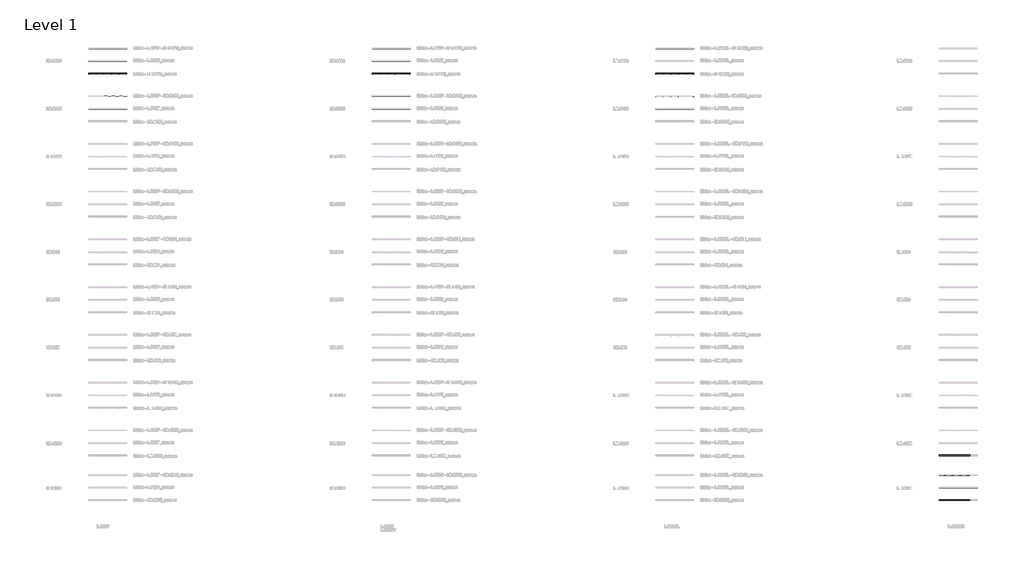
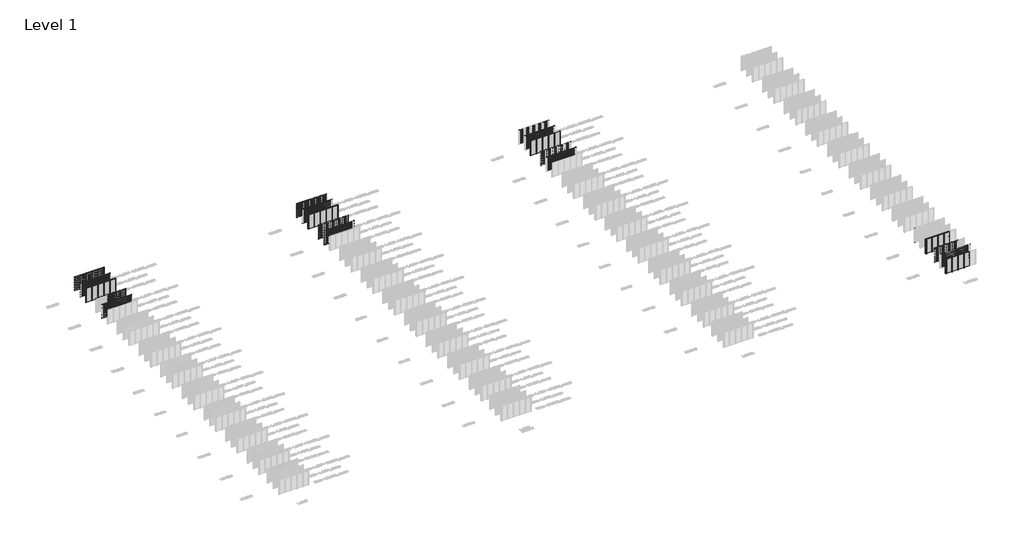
# One storey, part 11 of 540: 65 members, 62 plates.
"""IFC4 building model written with IfcOpenShell, lengths in millimetres."""

from ifc_helpers import new_model, si_unit, origin, origin_with_axes, place, context, project, spatial, polyline, outline, extrude, faceted_brep, transform, mapped, element, save
from components import rectangular_mullion_42be434b, rectangular_mullion_e1f482b2, rectangular_mullion_7803f5c4, rectangular_mullion_82152e2f, rectangular_mullion_ffdfeaf4, rectangular_mullion_e0a14876, rectangular_mullion_146f339b, rectangular_mullion_aa1047c5, rectangular_mullion_d2d38772, rectangular_mullion_aaa1fb1b, empty_system_panel_empty_aabbdda4

model = new_model("IFC4")

# Units and contexts
model_context = context("Model", 3, world=origin())
ifc_project = project(units=[si_unit("LENGTHUNIT", "METRE", prefix="MILLI")], contexts=[model_context])

# Site, building, storey
site = spatial("IfcSite", under=ifc_project)
building = spatial("IfcBuilding", under=site)
storey = spatial("IfcBuildingStorey", under=building, Name="Level 1", Elevation=0.0)

# Members
placement = place(None, origin())
rectangular_mullion_shape = rectangular_mullion_42be434b(model_context)
element("IfcMember", 1, ObjectType="Rectangular Mullion : LD.0065_renson", at=placement, inside=storey, context=model_context, shape_type="MappedRepresentation", body=[
    mapped(rectangular_mullion_shape, transform((138766.6208095, 73983.0540136, 0.0), x_axis=(-1.0, 0.0, 0.0), y_axis=(0.0, 1.0, 0.0), z_axis=(0.0, 0.0, -1.0))),
])
element("IfcMember", 2, ObjectType="Rectangular Mullion : LD.0065_renson", at=placement, inside=storey, context=model_context, shape_type="MappedRepresentation", body=[
    mapped(rectangular_mullion_shape, transform((137566.6208096, 73983.0540136, 0.0), x_axis=(-1.0, 0.0, 0.0), y_axis=(0.0, 1.0, 0.0), z_axis=(0.0, 0.0, -1.0))),
])
element("IfcMember", 3, ObjectType="Rectangular Mullion : LD.0065_renson", at=placement, inside=storey, context=model_context, shape_type="MappedRepresentation", body=[
    mapped(rectangular_mullion_shape, transform((136366.6208097, 73983.0540136, 0.0), x_axis=(-1.0, 0.0, 0.0), y_axis=(0.0, 1.0, 0.0), z_axis=(0.0, 0.0, -1.0))),
])
element("IfcMember", 4, ObjectType="Rectangular Mullion : LD.0065_renson", at=placement, inside=storey, context=model_context, shape_type="MappedRepresentation", body=[
    mapped(rectangular_mullion_shape, transform((135166.6208099, 73983.0540136, 0.0), x_axis=(-1.0, 0.0, 0.0), y_axis=(0.0, 1.0, 0.0), z_axis=(0.0, 0.0, -1.0))),
])
element("IfcMember", 5, ObjectType="Rectangular Mullion : LD.0065_renson", at=placement, inside=storey, context=model_context, shape_type="MappedRepresentation", body=[
    mapped(rectangular_mullion_shape, transform((138766.6208095, 69983.0540136, 0.0), x_axis=(-1.0, 0.0, 0.0), y_axis=(0.0, 1.0, 0.0), z_axis=(0.0, 0.0, -1.0))),
])
element("IfcMember", 6, ObjectType="Rectangular Mullion : LD.0065_renson", at=placement, inside=storey, context=model_context, shape_type="MappedRepresentation", body=[
    mapped(rectangular_mullion_shape, transform((137566.6208096, 69983.0540136, 0.0), x_axis=(-1.0, 0.0, 0.0), y_axis=(0.0, 1.0, 0.0), z_axis=(0.0, 0.0, -1.0))),
])
element("IfcMember", 7, ObjectType="Rectangular Mullion : LD.0065_renson", at=placement, inside=storey, context=model_context, shape_type="MappedRepresentation", body=[
    mapped(rectangular_mullion_shape, transform((136366.6208097, 69983.0540136, 0.0), x_axis=(-1.0, 0.0, 0.0), y_axis=(0.0, 1.0, 0.0), z_axis=(0.0, 0.0, -1.0))),
])
element("IfcMember", 8, ObjectType="Rectangular Mullion : LD.0065_renson", at=placement, inside=storey, context=model_context, shape_type="MappedRepresentation", body=[
    mapped(rectangular_mullion_shape, transform((135166.6208099, 69983.0540136, 0.0), x_axis=(-1.0, 0.0, 0.0), y_axis=(0.0, 1.0, 0.0), z_axis=(0.0, 0.0, -1.0))),
])
element("IfcMember", 9, ObjectType="Rectangular Mullion : LD.0065_renson", at=placement, inside=storey, context=model_context, shape_type="MappedRepresentation", body=[
    mapped(rectangular_mullion_shape, transform((182066.6208096, 73983.0540136, 0.0), x_axis=(-1.0, 0.0, 0.0), y_axis=(0.0, 1.0, 0.0), z_axis=(0.0, 0.0, -1.0))),
])
element("IfcMember", 10, ObjectType="Rectangular Mullion : LD.0065_renson", at=placement, inside=storey, context=model_context, shape_type="MappedRepresentation", body=[
    mapped(rectangular_mullion_shape, transform((180866.6208097, 73983.0540136, 0.0), x_axis=(-1.0, 0.0, 0.0), y_axis=(0.0, 1.0, 0.0), z_axis=(0.0, 0.0, -1.0))),
])
element("IfcMember", 11, ObjectType="Rectangular Mullion : LD.0065_renson", at=placement, inside=storey, context=model_context, shape_type="MappedRepresentation", body=[
    mapped(rectangular_mullion_shape, transform((179666.6208099, 73983.0540136, 0.0), x_axis=(-1.0, 0.0, 0.0), y_axis=(0.0, 1.0, 0.0), z_axis=(0.0, 0.0, -1.0))),
])
element("IfcMember", 12, ObjectType="Rectangular Mullion : LD.0065_renson", at=placement, inside=storey, context=model_context, shape_type="MappedRepresentation", body=[
    mapped(rectangular_mullion_shape, transform((183266.6208095, 69983.0540136, 0.0), x_axis=(-1.0, 0.0, 0.0), y_axis=(0.0, 1.0, 0.0), z_axis=(0.0, 0.0, -1.0))),
])
element("IfcMember", 13, ObjectType="Rectangular Mullion : LD.0065_renson", at=placement, inside=storey, context=model_context, shape_type="MappedRepresentation", body=[
    mapped(rectangular_mullion_shape, transform((182066.6208096, 69983.0540136, 0.0), x_axis=(-1.0, 0.0, 0.0), y_axis=(0.0, 1.0, 0.0), z_axis=(0.0, 0.0, -1.0))),
])
element("IfcMember", 14, ObjectType="Rectangular Mullion : LD.0065_renson", at=placement, inside=storey, context=model_context, shape_type="MappedRepresentation", body=[
    mapped(rectangular_mullion_shape, transform((180866.6208097, 69983.0540136, 0.0), x_axis=(-1.0, 0.0, 0.0), y_axis=(0.0, 1.0, 0.0), z_axis=(0.0, 0.0, -1.0))),
])
element("IfcMember", 15, ObjectType="Rectangular Mullion : LD.0065_renson", at=placement, inside=storey, context=model_context, shape_type="MappedRepresentation", body=[
    mapped(rectangular_mullion_shape, transform((179666.6208099, 69983.0540136, 0.0), x_axis=(-1.0, 0.0, 0.0), y_axis=(0.0, 1.0, 0.0), z_axis=(0.0, 0.0, -1.0))),
])
element("IfcMember", 16, ObjectType="Rectangular Mullion : LD.0065_renson", at=placement, inside=storey, context=model_context, shape_type="MappedRepresentation", body=[
    mapped(rectangular_mullion_shape, transform((183266.6208095, 73983.0540136, 0.0), x_axis=(-1.0, 0.0, 0.0), y_axis=(0.0, 1.0, 0.0), z_axis=(0.0, 0.0, -1.0))),
])
element("IfcMember", 17, ObjectType="Rectangular Mullion : LD.0065_renson", at=placement, inside=storey, context=model_context, shape_type="MappedRepresentation", body=[
    mapped(rectangular_mullion_shape, transform((225366.6208097, 73978.8040136, 0.0), x_axis=(-1.0, 0.0, 0.0), y_axis=(0.0, 1.0, 0.0), z_axis=(0.0, 0.0, -1.0))),
])
element("IfcMember", 18, ObjectType="Rectangular Mullion : LD.0065_renson", at=placement, inside=storey, context=model_context, shape_type="MappedRepresentation", body=[
    mapped(rectangular_mullion_shape, transform((224166.6208099, 73978.8040136, 0.0), x_axis=(-1.0, 0.0, 0.0), y_axis=(0.0, 1.0, 0.0), z_axis=(0.0, 0.0, -1.0))),
])
element("IfcMember", 19, ObjectType="Rectangular Mullion : LD.0065_renson", at=placement, inside=storey, context=model_context, shape_type="MappedRepresentation", body=[
    mapped(rectangular_mullion_shape, transform((225366.6208097, 69978.8040136, 0.0), x_axis=(-1.0, 0.0, 0.0), y_axis=(0.0, 1.0, 0.0), z_axis=(0.0, 0.0, -1.0))),
])
element("IfcMember", 20, ObjectType="Rectangular Mullion : LD.0065_renson", at=placement, inside=storey, context=model_context, shape_type="MappedRepresentation", body=[
    mapped(rectangular_mullion_shape, transform((224166.6208099, 69978.8040136, 0.0), x_axis=(-1.0, 0.0, 0.0), y_axis=(0.0, 1.0, 0.0), z_axis=(0.0, 0.0, -1.0))),
])
element("IfcMember", 21, ObjectType="Rectangular Mullion : LD.0065_renson", at=placement, inside=storey, context=model_context, shape_type="MappedRepresentation", body=[
    mapped(rectangular_mullion_shape, transform((226566.6208096, 69978.8040136, 0.0), x_axis=(-1.0, 0.0, 0.0), y_axis=(0.0, 1.0, 0.0), z_axis=(0.0, 0.0, -1.0))),
])
element("IfcMember", 22, ObjectType="Rectangular Mullion : LD.0065_renson", at=placement, inside=storey, context=model_context, shape_type="MappedRepresentation", body=[
    mapped(rectangular_mullion_shape, transform((227766.6208095, 69978.8040136, 0.0), x_axis=(-1.0, 0.0, 0.0), y_axis=(0.0, 1.0, 0.0), z_axis=(0.0, 0.0, -1.0))),
])
element("IfcMember", 23, ObjectType="Rectangular Mullion : LD.0065_renson", at=placement, inside=storey, context=model_context, shape_type="MappedRepresentation", body=[
    mapped(rectangular_mullion_shape, transform((226566.6208096, 73978.8040136, 0.0), x_axis=(-1.0, 0.0, 0.0), y_axis=(0.0, 1.0, 0.0), z_axis=(0.0, 0.0, -1.0))),
])
element("IfcMember", 24, ObjectType="Rectangular Mullion : LD.0065_renson", at=placement, inside=storey, context=model_context, shape_type="MappedRepresentation", body=[
    mapped(rectangular_mullion_shape, transform((227766.6208095, 73978.8040136, 0.0), x_axis=(-1.0, 0.0, 0.0), y_axis=(0.0, 1.0, 0.0), z_axis=(0.0, 0.0, -1.0))),
])
rectangular_mullion_2_shape = rectangular_mullion_e1f482b2(model_context)
element("IfcMember", 25, ObjectType="Rectangular Mullion : LD.0195_renson", at=placement, inside=storey, context=model_context, shape_type="MappedRepresentation", body=[
    mapped(rectangular_mullion_2_shape, transform((138766.6208095, 66483.0540136, 0.0), x_axis=(-1.0, 0.0, 0.0), y_axis=(0.0, 1.0, 0.0), z_axis=(0.0, 0.0, -1.0))),
])
element("IfcMember", 26, ObjectType="Rectangular Mullion : LD.0195_renson", at=placement, inside=storey, context=model_context, shape_type="MappedRepresentation", body=[
    mapped(rectangular_mullion_2_shape, transform((137566.6208096, 66483.0540136, 0.0), x_axis=(-1.0, 0.0, 0.0), y_axis=(0.0, 1.0, 0.0), z_axis=(0.0, 0.0, -1.0))),
])
element("IfcMember", 27, ObjectType="Rectangular Mullion : LD.0195_renson", at=placement, inside=storey, context=model_context, shape_type="MappedRepresentation", body=[
    mapped(rectangular_mullion_2_shape, transform((136366.6208097, 66483.0540136, 0.0), x_axis=(-1.0, 0.0, 0.0), y_axis=(0.0, 1.0, 0.0), z_axis=(0.0, 0.0, -1.0))),
])
element("IfcMember", 28, ObjectType="Rectangular Mullion : LD.0195_renson", at=placement, inside=storey, context=model_context, shape_type="MappedRepresentation", body=[
    mapped(rectangular_mullion_2_shape, transform((182066.6208096, 66483.0540136, 0.0), x_axis=(-1.0, 0.0, 0.0), y_axis=(0.0, 1.0, 0.0), z_axis=(0.0, 0.0, -1.0))),
])
element("IfcMember", 29, ObjectType="Rectangular Mullion : LD.0195_renson", at=placement, inside=storey, context=model_context, shape_type="MappedRepresentation", body=[
    mapped(rectangular_mullion_2_shape, transform((180866.6208097, 66483.0540136, 0.0), x_axis=(-1.0, 0.0, 0.0), y_axis=(0.0, 1.0, 0.0), z_axis=(0.0, 0.0, -1.0))),
])
element("IfcMember", 30, ObjectType="Rectangular Mullion : LD.0195_renson", at=placement, inside=storey, context=model_context, shape_type="MappedRepresentation", body=[
    mapped(rectangular_mullion_2_shape, transform((179666.6208099, 66483.0540136, 0.0), x_axis=(-1.0, 0.0, 0.0), y_axis=(0.0, 1.0, 0.0), z_axis=(0.0, 0.0, -1.0))),
])
element("IfcMember", 31, ObjectType="Rectangular Mullion : LD.0195_renson", at=placement, inside=storey, context=model_context, shape_type="MappedRepresentation", body=[
    mapped(rectangular_mullion_2_shape, transform((183266.6208095, 66483.0540136, 0.0), x_axis=(-1.0, 0.0, 0.0), y_axis=(0.0, 1.0, 0.0), z_axis=(0.0, 0.0, -1.0))),
])
element("IfcMember", 32, ObjectType="Rectangular Mullion : LD.0195_renson", at=placement, inside=storey, context=model_context, shape_type="MappedRepresentation", body=[
    mapped(rectangular_mullion_2_shape, transform((225366.6208097, 66478.8040136, 0.0), x_axis=(-1.0, 0.0, 0.0), y_axis=(0.0, 1.0, 0.0), z_axis=(0.0, 0.0, -1.0))),
])
element("IfcMember", 33, ObjectType="Rectangular Mullion : LD.0195_renson", at=placement, inside=storey, context=model_context, shape_type="MappedRepresentation", body=[
    mapped(rectangular_mullion_2_shape, transform((224166.6208099, 66478.8040136, 0.0), x_axis=(-1.0, 0.0, 0.0), y_axis=(0.0, 1.0, 0.0), z_axis=(0.0, 0.0, -1.0))),
])
element("IfcMember", 34, ObjectType="Rectangular Mullion : LD.0195_renson", at=placement, inside=storey, context=model_context, shape_type="MappedRepresentation", body=[
    mapped(rectangular_mullion_2_shape, transform((226566.6208096, 66478.8040136, 0.0), x_axis=(-1.0, 0.0, 0.0), y_axis=(0.0, 1.0, 0.0), z_axis=(0.0, 0.0, -1.0))),
])
element("IfcMember", 35, ObjectType="Rectangular Mullion : LD.0195_renson", at=placement, inside=storey, context=model_context, shape_type="MappedRepresentation", body=[
    mapped(rectangular_mullion_2_shape, transform((227766.6208095, 66478.8040136, 0.0), x_axis=(-1.0, 0.0, 0.0), y_axis=(0.0, 1.0, 0.0), z_axis=(0.0, 0.0, -1.0))),
])
rectangular_mullion_3_shape = rectangular_mullion_7803f5c4(model_context)
element("IfcMember", 36, ObjectType="Rectangular Mullion : LD.1250_renson", at=placement, inside=storey, context=model_context, shape_type="MappedRepresentation", body=[
    mapped(rectangular_mullion_3_shape, transform((271066.6208096, 9983.0540136, 0.0), x_axis=(-1.0, 0.0, 0.0), y_axis=(0.0, 1.0, 0.0), z_axis=(0.0, 0.0, -1.0))),
])
element("IfcMember", 37, ObjectType="Rectangular Mullion : LD.1250_renson", at=placement, inside=storey, context=model_context, shape_type="MappedRepresentation", body=[
    mapped(rectangular_mullion_3_shape, transform((269866.6208097, 9983.0540136, 0.0), x_axis=(-1.0, 0.0, 0.0), y_axis=(0.0, 1.0, 0.0), z_axis=(0.0, 0.0, -1.0))),
])
element("IfcMember", 38, ObjectType="Rectangular Mullion : LD.1250_renson", at=placement, inside=storey, context=model_context, shape_type="MappedRepresentation", body=[
    mapped(rectangular_mullion_3_shape, transform((268666.6208099, 9983.0540136, 0.0), x_axis=(-1.0, 0.0, 0.0), y_axis=(0.0, 1.0, 0.0), z_axis=(0.0, 0.0, -1.0))),
])
rectangular_mullion_4_shape = rectangular_mullion_82152e2f(model_context)
element("IfcMember", 39, ObjectType="Rectangular Mullion : LD.0240_renson", at=placement, inside=storey, context=model_context, shape_type="MappedRepresentation", body=[
    mapped(rectangular_mullion_4_shape, transform((269866.6208097, 6987.0270068, 0.0), x_axis=(-1.0, 0.0, 0.0), y_axis=(0.0, 1.0, 0.0), z_axis=(0.0, 0.0, -1.0))),
])
element("IfcMember", 40, ObjectType="Rectangular Mullion : LD.0240_renson", at=placement, inside=storey, context=model_context, shape_type="MappedRepresentation", body=[
    mapped(rectangular_mullion_4_shape, transform((268666.6208099, 6987.0270068, 0.0), x_axis=(-1.0, 0.0, 0.0), y_axis=(0.0, 1.0, 0.0), z_axis=(0.0, 0.0, -1.0))),
])
element("IfcMember", 41, ObjectType="Rectangular Mullion : LD.0240_renson", at=placement, inside=storey, context=model_context, shape_type="MappedRepresentation", body=[
    mapped(rectangular_mullion_4_shape, transform((271066.6208096, 2987.0270068, 0.0), x_axis=(-1.0, 0.0, 0.0), y_axis=(0.0, 1.0, 0.0), z_axis=(0.0, 0.0, -1.0))),
])
element("IfcMember", 42, ObjectType="Rectangular Mullion : LD.0240_renson", at=placement, inside=storey, context=model_context, shape_type="MappedRepresentation", body=[
    mapped(rectangular_mullion_4_shape, transform((269866.6208097, 2987.0270068, 0.0), x_axis=(-1.0, 0.0, 0.0), y_axis=(0.0, 1.0, 0.0), z_axis=(0.0, 0.0, -1.0))),
])
element("IfcMember", 43, ObjectType="Rectangular Mullion : LD.0240_renson", at=placement, inside=storey, context=model_context, shape_type="MappedRepresentation", body=[
    mapped(rectangular_mullion_4_shape, transform((268666.6208099, 2987.0270068, 0.0), x_axis=(-1.0, 0.0, 0.0), y_axis=(0.0, 1.0, 0.0), z_axis=(0.0, 0.0, -1.0))),
])
element("IfcMember", 44, ObjectType="Rectangular Mullion : LD.0240_renson", at=placement, inside=storey, context=model_context, shape_type="MappedRepresentation", body=[
    mapped(rectangular_mullion_4_shape, transform((271066.6208096, 6987.0270068, 0.0), x_axis=(-1.0, 0.0, 0.0), y_axis=(0.0, 1.0, 0.0), z_axis=(0.0, 0.0, -1.0))),
])
rectangular_mullion_5_shape = rectangular_mullion_ffdfeaf4(model_context)
element("IfcMember", 45, ObjectType="Rectangular Mullion : LD.0065 - left_renson", at=placement, inside=storey, context=model_context, shape_type="MappedRepresentation", body=[
    mapped(rectangular_mullion_5_shape, transform((133966.6208097, 73983.0540136, 0.0), x_axis=(-1.0, 0.0, 0.0), y_axis=(0.0, 1.0, 0.0), z_axis=(0.0, 0.0, -1.0))),
])
element("IfcMember", 46, ObjectType="Rectangular Mullion : LD.0065 - left_renson", at=placement, inside=storey, context=model_context, shape_type="MappedRepresentation", body=[
    mapped(rectangular_mullion_5_shape, transform((133966.6208097, 69983.0540136, 0.0), x_axis=(-1.0, 0.0, 0.0), y_axis=(0.0, 1.0, 0.0), z_axis=(0.0, 0.0, -1.0))),
])
element("IfcMember", 47, ObjectType="Rectangular Mullion : LD.0065 - left_renson", at=placement, inside=storey, context=model_context, shape_type="MappedRepresentation", body=[
    mapped(rectangular_mullion_5_shape, transform((178466.6208097, 73983.0540136, 0.0), x_axis=(-1.0, 0.0, 0.0), y_axis=(0.0, 1.0, 0.0), z_axis=(0.0, 0.0, -1.0))),
])
element("IfcMember", 48, ObjectType="Rectangular Mullion : LD.0065 - left_renson", at=placement, inside=storey, context=model_context, shape_type="MappedRepresentation", body=[
    mapped(rectangular_mullion_5_shape, transform((178466.6208097, 69983.0540136, 0.0), x_axis=(-1.0, 0.0, 0.0), y_axis=(0.0, 1.0, 0.0), z_axis=(0.0, 0.0, -1.0))),
])
element("IfcMember", 49, ObjectType="Rectangular Mullion : LD.0065 - left_renson", at=placement, inside=storey, context=model_context, shape_type="MappedRepresentation", body=[
    mapped(rectangular_mullion_5_shape, transform((222966.6208097, 73978.8040136, 0.0), x_axis=(-1.0, 0.0, 0.0), y_axis=(0.0, 1.0, 0.0), z_axis=(0.0, 0.0, -1.0))),
])
element("IfcMember", 50, ObjectType="Rectangular Mullion : LD.0065 - left_renson", at=placement, inside=storey, context=model_context, shape_type="MappedRepresentation", body=[
    mapped(rectangular_mullion_5_shape, transform((222966.6208097, 69978.8040136, 0.0), x_axis=(-1.0, 0.0, 0.0), y_axis=(0.0, 1.0, 0.0), z_axis=(0.0, 0.0, -1.0))),
])
rectangular_mullion_6_shape = rectangular_mullion_e0a14876(model_context)
element("IfcMember", 51, ObjectType="Rectangular Mullion : LD.0065 - right_renson", at=placement, inside=storey, context=model_context, shape_type="MappedRepresentation", body=[
    mapped(rectangular_mullion_6_shape, transform((139966.6208097, 73983.0540136, 3000.0), x_axis=(1.0, 0.0, 0.0), y_axis=(0.0, 1.0, 0.0), z_axis=(0.0, 0.0, 1.0))),
])
element("IfcMember", 52, ObjectType="Rectangular Mullion : LD.0065 - right_renson", at=placement, inside=storey, context=model_context, shape_type="MappedRepresentation", body=[
    mapped(rectangular_mullion_6_shape, transform((139966.6208097, 69983.0540136, 3000.0), x_axis=(1.0, 0.0, 0.0), y_axis=(0.0, 1.0, 0.0), z_axis=(0.0, 0.0, 1.0))),
])
element("IfcMember", 53, ObjectType="Rectangular Mullion : LD.0065 - right_renson", at=placement, inside=storey, context=model_context, shape_type="MappedRepresentation", body=[
    mapped(rectangular_mullion_6_shape, transform((184466.6208097, 73983.0540136, 3000.0), x_axis=(1.0, 0.0, 0.0), y_axis=(0.0, 1.0, 0.0), z_axis=(0.0, 0.0, 1.0))),
])
element("IfcMember", 54, ObjectType="Rectangular Mullion : LD.0065 - right_renson", at=placement, inside=storey, context=model_context, shape_type="MappedRepresentation", body=[
    mapped(rectangular_mullion_6_shape, transform((184466.6208097, 69983.0540136, 3000.0), x_axis=(1.0, 0.0, 0.0), y_axis=(0.0, 1.0, 0.0), z_axis=(0.0, 0.0, 1.0))),
])
element("IfcMember", 55, ObjectType="Rectangular Mullion : LD.0065 - right_renson", at=placement, inside=storey, context=model_context, shape_type="MappedRepresentation", body=[
    mapped(rectangular_mullion_6_shape, transform((228966.6208097, 73978.8040136, 3000.0), x_axis=(1.0, 0.0, 0.0), y_axis=(0.0, 1.0, 0.0), z_axis=(0.0, 0.0, 1.0))),
])
element("IfcMember", 56, ObjectType="Rectangular Mullion : LD.0065 - right_renson", at=placement, inside=storey, context=model_context, shape_type="MappedRepresentation", body=[
    mapped(rectangular_mullion_6_shape, transform((228966.6208097, 69978.8040136, 3000.0), x_axis=(1.0, 0.0, 0.0), y_axis=(0.0, 1.0, 0.0), z_axis=(0.0, 0.0, 1.0))),
])
rectangular_mullion_7_shape = rectangular_mullion_146f339b(model_context)
element("IfcMember", 57, ObjectType="Rectangular Mullion : LD.0195 - left_renson", at=placement, inside=storey, context=model_context, shape_type="MappedRepresentation", body=[
    mapped(rectangular_mullion_7_shape, transform((178466.6208097, 66483.0540136, 0.0), x_axis=(-1.0, 0.0, 0.0), y_axis=(0.0, 1.0, 0.0), z_axis=(0.0, 0.0, -1.0))),
])
element("IfcMember", 58, ObjectType="Rectangular Mullion : LD.0195 - left_renson", at=placement, inside=storey, context=model_context, shape_type="MappedRepresentation", body=[
    mapped(rectangular_mullion_7_shape, transform((222966.6208097, 66478.8040136, 0.0), x_axis=(-1.0, 0.0, 0.0), y_axis=(0.0, 1.0, 0.0), z_axis=(0.0, 0.0, -1.0))),
])
rectangular_mullion_8_shape = rectangular_mullion_aa1047c5(model_context)
element("IfcMember", 59, ObjectType="Rectangular Mullion : LD.0195 - right_renson", at=placement, inside=storey, context=model_context, shape_type="MappedRepresentation", body=[
    mapped(rectangular_mullion_8_shape, transform((139966.6208097, 66483.0540136, 3000.0), x_axis=(1.0, 0.0, 0.0), y_axis=(0.0, 1.0, 0.0), z_axis=(0.0, 0.0, 1.0))),
])
element("IfcMember", 60, ObjectType="Rectangular Mullion : LD.0195 - right_renson", at=placement, inside=storey, context=model_context, shape_type="MappedRepresentation", body=[
    mapped(rectangular_mullion_8_shape, transform((184466.6208097, 66483.0540136, 3000.0), x_axis=(1.0, 0.0, 0.0), y_axis=(0.0, 1.0, 0.0), z_axis=(0.0, 0.0, 1.0))),
])
element("IfcMember", 61, ObjectType="Rectangular Mullion : LD.0195 - right_renson", at=placement, inside=storey, context=model_context, shape_type="MappedRepresentation", body=[
    mapped(rectangular_mullion_8_shape, transform((228966.6208097, 66478.8040136, 3000.0), x_axis=(1.0, 0.0, 0.0), y_axis=(0.0, 1.0, 0.0), z_axis=(0.0, 0.0, 1.0))),
])
rectangular_mullion_9_shape = rectangular_mullion_d2d38772(model_context)
element("IfcMember", 62, ObjectType="Rectangular Mullion : LD.1250 - left_renson", at=placement, inside=storey, context=model_context, shape_type="MappedRepresentation", body=[
    mapped(rectangular_mullion_9_shape, transform((267466.6208097, 13983.0540136, 0.0), x_axis=(-1.0, 0.0, 0.0), y_axis=(0.0, 1.0, 0.0), z_axis=(0.0, 0.0, -1.0))),
])
element("IfcMember", 63, ObjectType="Rectangular Mullion : LD.1250 - left_renson", at=placement, inside=storey, context=model_context, shape_type="MappedRepresentation", body=[
    mapped(rectangular_mullion_9_shape, transform((267466.6208097, 9983.0540136, 0.0), x_axis=(-1.0, 0.0, 0.0), y_axis=(0.0, 1.0, 0.0), z_axis=(0.0, 0.0, -1.0))),
])
rectangular_mullion_10_shape = rectangular_mullion_aaa1fb1b(model_context)
element("IfcMember", 64, ObjectType="Rectangular Mullion : LD.0240 - left_renson", at=placement, inside=storey, context=model_context, shape_type="MappedRepresentation", body=[
    mapped(rectangular_mullion_10_shape, transform((267466.6208097, 6987.0270068, 0.0), x_axis=(-1.0, 0.0, 0.0), y_axis=(0.0, 1.0, 0.0), z_axis=(0.0, 0.0, -1.0))),
])
element("IfcMember", 65, ObjectType="Rectangular Mullion : LD.0240 - left_renson", at=placement, inside=storey, context=model_context, shape_type="MappedRepresentation", body=[
    mapped(rectangular_mullion_10_shape, transform((267466.6208097, 2987.0270068, 0.0), x_axis=(-1.0, 0.0, 0.0), y_axis=(0.0, 1.0, 0.0), z_axis=(0.0, 0.0, -1.0))),
])

# Plates
element("IfcPlate", 66, ObjectType="Linius - L.066P_renson", at=placement, inside=storey, context=model_context, shape_type="SweptSolid", body=[
    extrude(outline(polyline([(133966.6208097, 73984.0540136), (135166.6208099, 73984.0540136), (135166.6208099, 73982.0540136), (133966.6208097, 73982.0540136), (133966.6208097, 73984.0540136)])), origin_with_axes(), (0.0, 0.0, 1.0), 3000.0),
])
element("IfcPlate", 67, ObjectType="Linius - L.066P_renson", at=placement, inside=storey, context=model_context, shape_type="SweptSolid", body=[
    extrude(outline(polyline([(135166.6208099, 73984.0540136), (136366.6208097, 73984.0540136), (136366.6208097, 73982.0540136), (135166.6208099, 73982.0540136), (135166.6208099, 73984.0540136)])), origin_with_axes(), (0.0, 0.0, 1.0), 3000.0),
])
element("IfcPlate", 68, ObjectType="Linius - L.066P_renson", at=placement, inside=storey, context=model_context, shape_type="SweptSolid", body=[
    extrude(outline(polyline([(136366.6208097, 73984.0540136), (137566.6208096, 73984.0540136), (137566.6208096, 73982.0540136), (136366.6208097, 73982.0540136), (136366.6208097, 73984.0540136)])), origin_with_axes(), (0.0, 0.0, 1.0), 3000.0),
])
element("IfcPlate", 69, ObjectType="Linius - L.066P_renson", at=placement, inside=storey, context=model_context, shape_type="SweptSolid", body=[
    extrude(outline(polyline([(137566.6208096, 73984.0540136), (138766.6208095, 73984.0540136), (138766.6208095, 73982.0540136), (137566.6208096, 73982.0540136), (137566.6208096, 73984.0540136)])), origin_with_axes(), (0.0, 0.0, 1.0), 3000.0),
])
element("IfcPlate", 70, ObjectType="Linius - L.066P_renson", at=placement, inside=storey, context=model_context, shape_type="SweptSolid", body=[
    extrude(outline(polyline([(133966.6208097, 71984.0540136), (139966.6208097, 71984.0540136), (139966.6208097, 71982.0540136), (133966.6208097, 71982.0540136), (133966.6208097, 71984.0540136)])), origin_with_axes(), (0.0, 0.0, 1.0), 3000.0),
])
element("IfcPlate", 71, ObjectType="Linius - L.066P_renson", at=placement, inside=storey, context=model_context, shape_type="SweptSolid", body=[
    extrude(outline(polyline([(136366.6208097, 66484.0540136), (137566.6208096, 66484.0540136), (137566.6208096, 66482.0540136), (136366.6208097, 66482.0540136), (136366.6208097, 66484.0540136)])), origin_with_axes(), (0.0, 0.0, 1.0), 3000.0),
])
element("IfcPlate", 72, ObjectType="Linius - L.066P_renson", at=placement, inside=storey, context=model_context, shape_type="SweptSolid", body=[
    extrude(outline(polyline([(137566.6208096, 66484.0540136), (138766.6208095, 66484.0540136), (138766.6208095, 66482.0540136), (137566.6208096, 66482.0540136), (137566.6208096, 66484.0540136)])), origin_with_axes(), (0.0, 0.0, 1.0), 3000.0),
])
element("IfcPlate", 73, ObjectType="Linius - L.066P_renson", at=placement, inside=storey, context=model_context, shape_type="SweptSolid", body=[
    extrude(outline(polyline([(133966.6208097, 64484.0540136), (139966.6208097, 64484.0540136), (139966.6208097, 64482.0540136), (133966.6208097, 64482.0540136), (133966.6208097, 64484.0540136)])), origin_with_axes(), (0.0, 0.0, 1.0), 3000.0),
])
element("IfcPlate", 74, ObjectType="Linius - L.066P_renson", at=placement, inside=storey, context=model_context, shape_type="SweptSolid", body=[
    extrude(outline(polyline([(138766.6208095, 73984.0540136), (139966.6208097, 73984.0540136), (139966.6208097, 73982.0540136), (138766.6208095, 73982.0540136), (138766.6208095, 73984.0540136)])), origin_with_axes(), (0.0, 0.0, 1.0), 3000.0),
])
element("IfcPlate", 75, ObjectType="Linius - L.066P_renson", at=placement, inside=storey, context=model_context, shape_type="SweptSolid", body=[
    extrude(outline(polyline([(138766.6208095, 66484.0540136), (139966.6208097, 66484.0540136), (139966.6208097, 66482.0540136), (138766.6208095, 66482.0540136), (138766.6208095, 66484.0540136)])), origin_with_axes(), (0.0, 0.0, 1.0), 3000.0),
])
element("IfcPlate", 76, ObjectType="Linius - L.066V_renson", at=placement, inside=storey, context=model_context, shape_type="SweptSolid", body=[
    extrude(outline(polyline([(178466.6208097, 73984.0540136), (179666.6208099, 73984.0540136), (179666.6208099, 73982.0540136), (178466.6208097, 73982.0540136), (178466.6208097, 73984.0540136)])), origin_with_axes(), (0.0, 0.0, 1.0), 3000.0),
])
element("IfcPlate", 77, ObjectType="Linius - L.066V_renson", at=placement, inside=storey, context=model_context, shape_type="SweptSolid", body=[
    extrude(outline(polyline([(179666.6208099, 73984.0540136), (180866.6208097, 73984.0540136), (180866.6208097, 73982.0540136), (179666.6208099, 73982.0540136), (179666.6208099, 73984.0540136)])), origin_with_axes(), (0.0, 0.0, 1.0), 3000.0),
])
element("IfcPlate", 78, ObjectType="Linius - L.066V_renson", at=placement, inside=storey, context=model_context, shape_type="SweptSolid", body=[
    extrude(outline(polyline([(180866.6208097, 73984.0540136), (182066.6208096, 73984.0540136), (182066.6208096, 73982.0540136), (180866.6208097, 73982.0540136), (180866.6208097, 73984.0540136)])), origin_with_axes(), (0.0, 0.0, 1.0), 3000.0),
])
element("IfcPlate", 79, ObjectType="Linius - L.066V_renson", at=placement, inside=storey, context=model_context, shape_type="SweptSolid", body=[
    extrude(outline(polyline([(183266.6208095, 73984.0540136), (184466.6208097, 73984.0540136), (184466.6208097, 73982.0540136), (183266.6208095, 73982.0540136), (183266.6208095, 73984.0540136)])), origin_with_axes(), (0.0, 0.0, 1.0), 3000.0),
])
element("IfcPlate", 80, ObjectType="Linius - L.066V_renson", at=placement, inside=storey, context=model_context, shape_type="SweptSolid", body=[
    extrude(outline(polyline([(178466.6208097, 71984.0540136), (184466.6208097, 71984.0540136), (184466.6208097, 71982.0540136), (178466.6208097, 71982.0540136), (178466.6208097, 71984.0540136)])), origin_with_axes(), (0.0, 0.0, 1.0), 3000.0),
])
element("IfcPlate", 81, ObjectType="Linius - L.066V_renson", at=placement, inside=storey, context=model_context, shape_type="SweptSolid", body=[
    extrude(outline(polyline([(178466.6208097, 66484.0540136), (179666.6208099, 66484.0540136), (179666.6208099, 66482.0540136), (178466.6208097, 66482.0540136), (178466.6208097, 66484.0540136)])), origin_with_axes(), (0.0, 0.0, 1.0), 3000.0),
])
element("IfcPlate", 82, ObjectType="Linius - L.066V_renson", at=placement, inside=storey, context=model_context, shape_type="SweptSolid", body=[
    extrude(outline(polyline([(179666.6208099, 66484.0540136), (180866.6208097, 66484.0540136), (180866.6208097, 66482.0540136), (179666.6208099, 66482.0540136), (179666.6208099, 66484.0540136)])), origin_with_axes(), (0.0, 0.0, 1.0), 3000.0),
])
element("IfcPlate", 83, ObjectType="Linius - L.066V_renson", at=placement, inside=storey, context=model_context, shape_type="SweptSolid", body=[
    extrude(outline(polyline([(180866.6208097, 66484.0540136), (182066.6208096, 66484.0540136), (182066.6208096, 66482.0540136), (180866.6208097, 66482.0540136), (180866.6208097, 66484.0540136)])), origin_with_axes(), (0.0, 0.0, 1.0), 3000.0),
])
element("IfcPlate", 84, ObjectType="Linius - L.066V_renson", at=placement, inside=storey, context=model_context, shape_type="SweptSolid", body=[
    extrude(outline(polyline([(183266.6208095, 66484.0540136), (184466.6208097, 66484.0540136), (184466.6208097, 66482.0540136), (183266.6208095, 66482.0540136), (183266.6208095, 66484.0540136)])), origin_with_axes(), (0.0, 0.0, 1.0), 3000.0),
])
element("IfcPlate", 85, ObjectType="Linius - L.066V_renson", at=placement, inside=storey, context=model_context, shape_type="SweptSolid", body=[
    extrude(outline(polyline([(178466.6208097, 64484.0540136), (184466.6208097, 64484.0540136), (184466.6208097, 64482.0540136), (178466.6208097, 64482.0540136), (178466.6208097, 64484.0540136)])), origin_with_axes(), (0.0, 0.0, 1.0), 3000.0),
])
element("IfcPlate", 86, ObjectType="Linius - L.066V_renson", at=placement, inside=storey, context=model_context, shape_type="SweptSolid", body=[
    extrude(outline(polyline([(182066.6208096, 73984.0540136), (183266.6208095, 73984.0540136), (183266.6208095, 73982.0540136), (182066.6208096, 73982.0540136), (182066.6208096, 73984.0540136)])), origin_with_axes(), (0.0, 0.0, 1.0), 3000.0),
])
element("IfcPlate", 87, ObjectType="Linius - L.066V_renson", at=placement, inside=storey, context=model_context, shape_type="SweptSolid", body=[
    extrude(outline(polyline([(182066.6208096, 66484.0540136), (183266.6208095, 66484.0540136), (183266.6208095, 66482.0540136), (182066.6208096, 66482.0540136), (182066.6208096, 66484.0540136)])), origin_with_axes(), (0.0, 0.0, 1.0), 3000.0),
])
element("IfcPlate", 88, ObjectType="Linius - L.066CL_renson", at=placement, inside=storey, context=model_context, shape_type="SweptSolid", body=[
    extrude(outline(polyline([(222966.6208097, 73979.8040136), (224166.6208099, 73979.8040136), (224166.6208099, 73977.8040136), (222966.6208097, 73977.8040136), (222966.6208097, 73979.8040136)])), origin_with_axes(), (0.0, 0.0, 1.0), 3000.0),
])
element("IfcPlate", 89, ObjectType="Linius - L.066CL_renson", at=placement, inside=storey, context=model_context, shape_type="SweptSolid", body=[
    extrude(outline(polyline([(224166.6208099, 73979.8040136), (225366.6208097, 73979.8040136), (225366.6208097, 73977.8040136), (224166.6208099, 73977.8040136), (224166.6208099, 73979.8040136)])), origin_with_axes(), (0.0, 0.0, 1.0), 3000.0),
])
element("IfcPlate", 90, ObjectType="Linius - L.066CL_renson", at=placement, inside=storey, context=model_context, shape_type="SweptSolid", body=[
    extrude(outline(polyline([(227766.6208095, 73979.8040136), (228966.6208097, 73979.8040136), (228966.6208097, 73977.8040136), (227766.6208095, 73977.8040136), (227766.6208095, 73979.8040136)])), origin_with_axes(), (0.0, 0.0, 1.0), 3000.0),
])
element("IfcPlate", 91, ObjectType="Linius - L.066CL_renson", at=placement, inside=storey, context=model_context, shape_type="SweptSolid", body=[
    extrude(outline(polyline([(222966.6208097, 71979.8040136), (228966.6208097, 71979.8040136), (228966.6208097, 71977.8040136), (222966.6208097, 71977.8040136), (222966.6208097, 71979.8040136)])), origin_with_axes(), (0.0, 0.0, 1.0), 3000.0),
])
element("IfcPlate", 92, ObjectType="Linius - L.066CL_renson", at=placement, inside=storey, context=model_context, shape_type="SweptSolid", body=[
    extrude(outline(polyline([(222966.6208097, 66479.8040136), (224166.6208099, 66479.8040136), (224166.6208099, 66477.8040136), (222966.6208097, 66477.8040136), (222966.6208097, 66479.8040136)])), origin_with_axes(), (0.0, 0.0, 1.0), 3000.0),
])
element("IfcPlate", 93, ObjectType="Linius - L.066CL_renson", at=placement, inside=storey, context=model_context, shape_type="SweptSolid", body=[
    extrude(outline(polyline([(224166.6208099, 66479.8040136), (225366.6208097, 66479.8040136), (225366.6208097, 66477.8040136), (224166.6208099, 66477.8040136), (224166.6208099, 66479.8040136)])), origin_with_axes(), (0.0, 0.0, 1.0), 3000.0),
])
element("IfcPlate", 94, ObjectType="Linius - L.066CL_renson", at=placement, inside=storey, context=model_context, shape_type="SweptSolid", body=[
    extrude(outline(polyline([(227766.6208095, 66479.8040136), (228966.6208097, 66479.8040136), (228966.6208097, 66477.8040136), (227766.6208095, 66477.8040136), (227766.6208095, 66479.8040136)])), origin_with_axes(), (0.0, 0.0, 1.0), 3000.0),
])
element("IfcPlate", 95, ObjectType="Linius - L.066CL_renson", at=placement, inside=storey, context=model_context, shape_type="SweptSolid", body=[
    extrude(outline(polyline([(222966.6208097, 64479.8040136), (228966.6208097, 64479.8040136), (228966.6208097, 64477.8040136), (222966.6208097, 64477.8040136), (222966.6208097, 64479.8040136)])), origin_with_axes(), (0.0, 0.0, 1.0), 3000.0),
])
element("IfcPlate", 96, ObjectType="Linius - L.066CL_renson", at=placement, inside=storey, context=model_context, shape_type="SweptSolid", body=[
    extrude(outline(polyline([(225366.6208097, 73979.8040136), (226566.6208096, 73979.8040136), (226566.6208096, 73977.8040136), (225366.6208097, 73977.8040136), (225366.6208097, 73979.8040136)])), origin_with_axes(), (0.0, 0.0, 1.0), 3000.0),
])
element("IfcPlate", 97, ObjectType="Linius - L.066CL_renson", at=placement, inside=storey, context=model_context, shape_type="SweptSolid", body=[
    extrude(outline(polyline([(226566.6208096, 73979.8040136), (227766.6208095, 73979.8040136), (227766.6208095, 73977.8040136), (226566.6208096, 73977.8040136), (226566.6208096, 73979.8040136)])), origin_with_axes(), (0.0, 0.0, 1.0), 3000.0),
])
element("IfcPlate", 98, ObjectType="Linius - L.066CL_renson", at=placement, inside=storey, context=model_context, shape_type="SweptSolid", body=[
    extrude(outline(polyline([(225366.6208097, 66479.8040136), (226566.6208096, 66479.8040136), (226566.6208096, 66477.8040136), (225366.6208097, 66477.8040136), (225366.6208097, 66479.8040136)])), origin_with_axes(), (0.0, 0.0, 1.0), 3000.0),
])
element("IfcPlate", 99, ObjectType="Linius - L.066CL_renson", at=placement, inside=storey, context=model_context, shape_type="SweptSolid", body=[
    extrude(outline(polyline([(226566.6208096, 66479.8040136), (227766.6208095, 66479.8040136), (227766.6208095, 66477.8040136), (226566.6208096, 66477.8040136), (226566.6208096, 66479.8040136)])), origin_with_axes(), (0.0, 0.0, 1.0), 3000.0),
])
element("IfcPlate", 100, at=placement, inside=storey, context=model_context, shape_type="Brep", body=[
    faceted_brep([(268666.6208099, 6988.0270068, 0.0), (267466.6208097, 6988.0270068, 0.0), (267466.6208097, 6988.0270068, 3000.0), (268666.6208099, 6988.0270068, 3000.0), (268666.6208099, 6986.0270068, 0.0), (268666.6208099, 6986.0270068, 3000.0), (267466.6208097, 6986.0270068, 3000.0), (267466.6208097, 6986.0270068, 0.0)], [[[0, 1, 2, 3]], [[4, 5, 6, 7]], [[1, 0, 4, 7]], [[2, 1, 7, 6]], [[3, 2, 6, 5]], [[0, 3, 5, 4]]]),
])
element("IfcPlate", 101, at=placement, inside=storey, context=model_context, shape_type="Brep", body=[
    faceted_brep([(269866.6208097, 6988.0270068, 0.0), (268666.6208099, 6988.0270068, 0.0), (268666.6208099, 6988.0270068, 3000.0), (269866.6208097, 6988.0270068, 3000.0), (269866.6208097, 6986.0270068, 0.0), (269866.6208097, 6986.0270068, 3000.0), (268666.6208099, 6986.0270068, 3000.0), (268666.6208099, 6986.0270068, 0.0)], [[[0, 1, 2, 3]], [[4, 5, 6, 7]], [[1, 0, 4, 7]], [[2, 1, 7, 6]], [[3, 2, 6, 5]], [[0, 3, 5, 4]]]),
])
element("IfcPlate", 102, at=placement, inside=storey, context=model_context, shape_type="Brep", body=[
    faceted_brep([(273466.6208097, 4988.0270068, 0.0), (267466.6208097, 4988.0270068, 0.0), (267466.6208097, 4988.0270068, 3000.0), (273466.6208097, 4988.0270068, 3000.0), (273466.6208097, 4986.0270068, 0.0), (273466.6208097, 4986.0270068, 3000.0), (267466.6208097, 4986.0270068, 3000.0), (267466.6208097, 4986.0270068, 0.0)], [[[0, 1, 2, 3]], [[4, 5, 6, 7]], [[1, 0, 4, 7]], [[2, 1, 7, 6]], [[3, 2, 6, 5]], [[0, 3, 5, 4]]]),
])
element("IfcPlate", 103, at=placement, inside=storey, context=model_context, shape_type="Brep", body=[
    faceted_brep([(271066.6208096, 6988.0270068, 0.0), (269866.6208097, 6988.0270068, 0.0), (269866.6208097, 6988.0270068, 3000.0), (271066.6208096, 6988.0270068, 3000.0), (271066.6208096, 6986.0270068, 0.0), (271066.6208096, 6986.0270068, 3000.0), (269866.6208097, 6986.0270068, 3000.0), (269866.6208097, 6986.0270068, 0.0)], [[[0, 1, 2, 3]], [[4, 5, 6, 7]], [[1, 0, 4, 7]], [[2, 1, 7, 6]], [[3, 2, 6, 5]], [[0, 3, 5, 4]]]),
])
element("IfcPlate", 104, at=placement, inside=storey, context=model_context, shape_type="Brep", body=[
    faceted_brep([(272266.6208095, 6988.0270068, 0.0), (271066.6208096, 6988.0270068, 0.0), (271066.6208096, 6988.0270068, 3000.0), (272266.6208095, 6988.0270068, 3000.0), (272266.6208095, 6986.0270068, 0.0), (272266.6208095, 6986.0270068, 3000.0), (271066.6208096, 6986.0270068, 3000.0), (271066.6208096, 6986.0270068, 0.0)], [[[0, 1, 2, 3]], [[4, 5, 6, 7]], [[1, 0, 4, 7]], [[2, 1, 7, 6]], [[3, 2, 6, 5]], [[0, 3, 5, 4]]]),
])
empty_system_panel_empty_shape = empty_system_panel_empty_aabbdda4(model_context)
element("IfcPlate", 105, ObjectType="Empty System Panel : Empty", at=placement, inside=storey, context=model_context, shape_type="MappedRepresentation", body=[
    mapped(empty_system_panel_empty_shape, transform((139366.6208096, 69983.0540136, 0.0), x_axis=(-1.0, 0.0, 0.0), y_axis=(0.0, -1.0, 0.0), z_axis=(0.0, 0.0, 1.0))),
])
element("IfcPlate", 106, ObjectType="Empty System Panel : Empty", at=placement, inside=storey, context=model_context, shape_type="MappedRepresentation", body=[
    mapped(empty_system_panel_empty_shape, transform((138166.6208096, 69983.0540136, 0.0), x_axis=(-1.0, 0.0, 0.0), y_axis=(0.0, -1.0, 0.0), z_axis=(0.0, 0.0, 1.0))),
])
element("IfcPlate", 107, ObjectType="Empty System Panel : Empty", at=placement, inside=storey, context=model_context, shape_type="MappedRepresentation", body=[
    mapped(empty_system_panel_empty_shape, transform((136966.6208097, 69983.0540136, 0.0), x_axis=(-1.0, 0.0, 0.0), y_axis=(0.0, -1.0, 0.0), z_axis=(0.0, 0.0, 1.0))),
])
element("IfcPlate", 108, ObjectType="Empty System Panel : Empty", at=placement, inside=storey, context=model_context, shape_type="MappedRepresentation", body=[
    mapped(empty_system_panel_empty_shape, transform((135766.6208098, 69983.0540136, 0.0), x_axis=(-1.0, 0.0, 0.0), y_axis=(0.0, -1.0, 0.0), z_axis=(0.0, 0.0, 1.0))),
])
element("IfcPlate", 109, ObjectType="Empty System Panel : Empty", at=placement, inside=storey, context=model_context, shape_type="MappedRepresentation", body=[
    mapped(empty_system_panel_empty_shape, transform((134566.6208098, 69983.0540136, 0.0), x_axis=(-1.0, 0.0, 0.0), y_axis=(0.0, -1.0, 0.0), z_axis=(0.0, 0.0, 1.0))),
])
element("IfcPlate", 110, ObjectType="Empty System Panel : Empty", at=placement, inside=storey, context=model_context, shape_type="MappedRepresentation", body=[
    mapped(empty_system_panel_empty_shape, transform((183866.6208096, 69983.0540136, 0.0), x_axis=(-1.0, 0.0, 0.0), y_axis=(0.0, -1.0, 0.0), z_axis=(0.0, 0.0, 1.0))),
])
element("IfcPlate", 111, ObjectType="Empty System Panel : Empty", at=placement, inside=storey, context=model_context, shape_type="MappedRepresentation", body=[
    mapped(empty_system_panel_empty_shape, transform((182666.6208096, 69983.0540136, 0.0), x_axis=(-1.0, 0.0, 0.0), y_axis=(0.0, -1.0, 0.0), z_axis=(0.0, 0.0, 1.0))),
])
element("IfcPlate", 112, ObjectType="Empty System Panel : Empty", at=placement, inside=storey, context=model_context, shape_type="MappedRepresentation", body=[
    mapped(empty_system_panel_empty_shape, transform((181466.6208097, 69983.0540136, 0.0), x_axis=(-1.0, 0.0, 0.0), y_axis=(0.0, -1.0, 0.0), z_axis=(0.0, 0.0, 1.0))),
])
element("IfcPlate", 113, ObjectType="Empty System Panel : Empty", at=placement, inside=storey, context=model_context, shape_type="MappedRepresentation", body=[
    mapped(empty_system_panel_empty_shape, transform((180266.6208098, 69983.0540136, 0.0), x_axis=(-1.0, 0.0, 0.0), y_axis=(0.0, -1.0, 0.0), z_axis=(0.0, 0.0, 1.0))),
])
element("IfcPlate", 114, ObjectType="Empty System Panel : Empty", at=placement, inside=storey, context=model_context, shape_type="MappedRepresentation", body=[
    mapped(empty_system_panel_empty_shape, transform((179066.6208098, 69983.0540136, 0.0), x_axis=(-1.0, 0.0, 0.0), y_axis=(0.0, -1.0, 0.0), z_axis=(0.0, 0.0, 1.0))),
])
element("IfcPlate", 115, ObjectType="Empty System Panel : Empty", at=placement, inside=storey, context=model_context, shape_type="MappedRepresentation", body=[
    mapped(empty_system_panel_empty_shape, transform((228366.6208096, 69978.8040136, 0.0), x_axis=(-1.0, 0.0, 0.0), y_axis=(0.0, -1.0, 0.0), z_axis=(0.0, 0.0, 1.0))),
])
element("IfcPlate", 116, ObjectType="Empty System Panel : Empty", at=placement, inside=storey, context=model_context, shape_type="MappedRepresentation", body=[
    mapped(empty_system_panel_empty_shape, transform((224766.6208098, 69978.8040136, 0.0), x_axis=(-1.0, 0.0, 0.0), y_axis=(0.0, -1.0, 0.0), z_axis=(0.0, 0.0, 1.0))),
])
element("IfcPlate", 117, ObjectType="Empty System Panel : Empty", at=placement, inside=storey, context=model_context, shape_type="MappedRepresentation", body=[
    mapped(empty_system_panel_empty_shape, transform((223566.6208098, 69978.8040136, 0.0), x_axis=(-1.0, 0.0, 0.0), y_axis=(0.0, -1.0, 0.0), z_axis=(0.0, 0.0, 1.0))),
])
element("IfcPlate", 118, ObjectType="Empty System Panel : Empty", at=placement, inside=storey, context=model_context, shape_type="MappedRepresentation", body=[
    mapped(empty_system_panel_empty_shape, transform((225966.6208097, 69978.8040136, 0.0), x_axis=(-1.0, 0.0, 0.0), y_axis=(0.0, -1.0, 0.0), z_axis=(0.0, 0.0, 1.0))),
])
element("IfcPlate", 119, ObjectType="Empty System Panel : Empty", at=placement, inside=storey, context=model_context, shape_type="MappedRepresentation", body=[
    mapped(empty_system_panel_empty_shape, transform((227166.6208096, 69978.8040136, 0.0), x_axis=(-1.0, 0.0, 0.0), y_axis=(0.0, -1.0, 0.0), z_axis=(0.0, 0.0, 1.0))),
])
element("IfcPlate", 120, ObjectType="Empty System Panel : Empty", at=placement, inside=storey, context=model_context, shape_type="MappedRepresentation", body=[
    mapped(empty_system_panel_empty_shape, transform((271666.6208096, 9983.0540136, 0.0), x_axis=(-1.0, 0.0, 0.0), y_axis=(0.0, -1.0, 0.0), z_axis=(0.0, 0.0, 1.0))),
])
element("IfcPlate", 121, ObjectType="Empty System Panel : Empty", at=placement, inside=storey, context=model_context, shape_type="MappedRepresentation", body=[
    mapped(empty_system_panel_empty_shape, transform((270466.6208097, 9983.0540136, 0.0), x_axis=(-1.0, 0.0, 0.0), y_axis=(0.0, -1.0, 0.0), z_axis=(0.0, 0.0, 1.0))),
])
element("IfcPlate", 122, ObjectType="Empty System Panel : Empty", at=placement, inside=storey, context=model_context, shape_type="MappedRepresentation", body=[
    mapped(empty_system_panel_empty_shape, transform((269266.6208098, 9983.0540136, 0.0), x_axis=(-1.0, 0.0, 0.0), y_axis=(0.0, -1.0, 0.0), z_axis=(0.0, 0.0, 1.0))),
])
element("IfcPlate", 123, ObjectType="Empty System Panel : Empty", at=placement, inside=storey, context=model_context, shape_type="MappedRepresentation", body=[
    mapped(empty_system_panel_empty_shape, transform((268066.6208098, 9983.0540136, 0.0), x_axis=(-1.0, 0.0, 0.0), y_axis=(0.0, -1.0, 0.0), z_axis=(0.0, 0.0, 1.0))),
])
element("IfcPlate", 124, ObjectType="Empty System Panel : Empty", at=placement, inside=storey, context=model_context, shape_type="MappedRepresentation", body=[
    mapped(empty_system_panel_empty_shape, transform((271666.6208096, 2987.0270068, 0.0), x_axis=(-1.0, 0.0, 0.0), y_axis=(0.0, -1.0, 0.0), z_axis=(0.0, 0.0, 1.0))),
])
element("IfcPlate", 125, ObjectType="Empty System Panel : Empty", at=placement, inside=storey, context=model_context, shape_type="MappedRepresentation", body=[
    mapped(empty_system_panel_empty_shape, transform((270466.6208097, 2987.0270068, 0.0), x_axis=(-1.0, 0.0, 0.0), y_axis=(0.0, -1.0, 0.0), z_axis=(0.0, 0.0, 1.0))),
])
element("IfcPlate", 126, ObjectType="Empty System Panel : Empty", at=placement, inside=storey, context=model_context, shape_type="MappedRepresentation", body=[
    mapped(empty_system_panel_empty_shape, transform((269266.6208098, 2987.0270068, 0.0), x_axis=(-1.0, 0.0, 0.0), y_axis=(0.0, -1.0, 0.0), z_axis=(0.0, 0.0, 1.0))),
])
element("IfcPlate", 127, ObjectType="Empty System Panel : Empty", at=placement, inside=storey, context=model_context, shape_type="MappedRepresentation", body=[
    mapped(empty_system_panel_empty_shape, transform((268066.6208098, 2987.0270068, 0.0), x_axis=(-1.0, 0.0, 0.0), y_axis=(0.0, -1.0, 0.0), z_axis=(0.0, 0.0, 1.0))),
])

save(model, "model.ifc")
